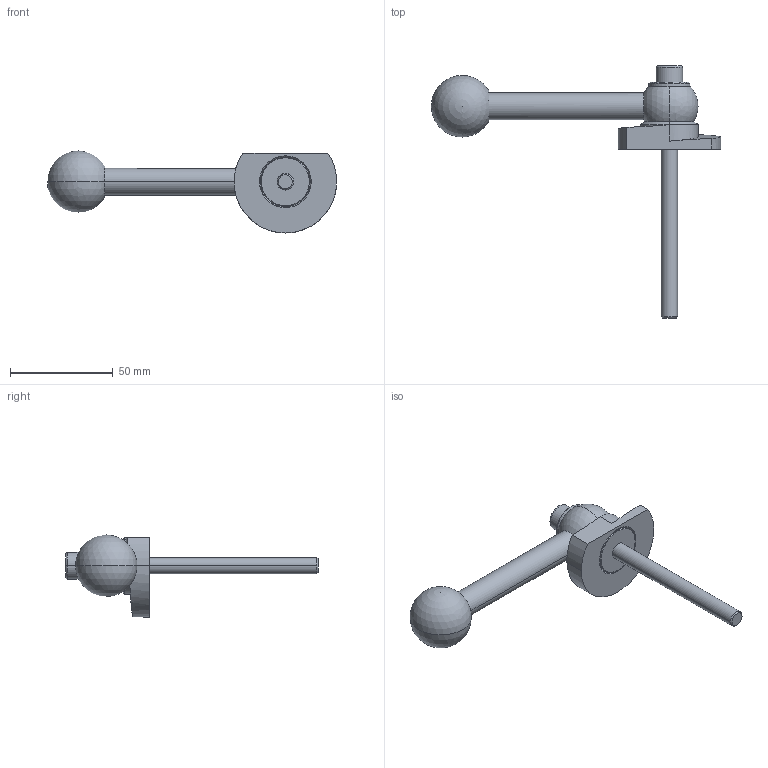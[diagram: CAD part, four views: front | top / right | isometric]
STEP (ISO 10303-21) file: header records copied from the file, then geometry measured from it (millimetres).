
FILE_DESCRIPTION (( 'STEP AP214' ), '1' );
FILE_NAME ('918.1-50-GVS-R-82.step', '2024-05-15T13:02:02', ( '' ), ( '' ), 'SwSTEP 2.0', 'SolidWorks 2022', '' );
FILE_SCHEMA (( 'AUTOMOTIVE_DESIGN' ));
Length unit declared in the file: millimetre
Products named in the file (1): 918.1-50-GVS-R-82
Bounding box: 141 x 123 x 40 mm (x, y, z)
Volume: 55096 mm3; surface area: 17404.7 mm2
Topology: 1 solids, 1 shells, 62 faces, 141 edges, 89 vertices
Faces by surface type: plane 20, cylinder 19, cone 14, sphere 4, bspline 3, torus 2
Entity records: 2011 total; most frequent: CARTESIAN_POINT 618, DIRECTION 305, ORIENTED_EDGE 262, EDGE_CURVE 131, AXIS2_PLACEMENT_3D 125, VERTEX_POINT 83, EDGE_LOOP 74, CIRCLE 65
